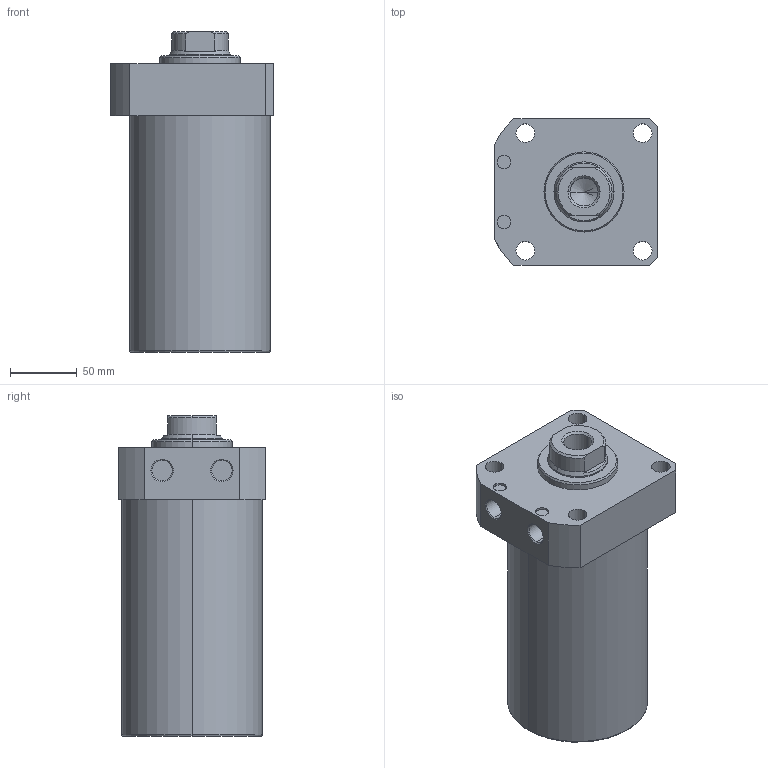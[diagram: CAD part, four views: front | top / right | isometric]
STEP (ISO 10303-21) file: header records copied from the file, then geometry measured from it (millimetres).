
FILE_DESCRIPTION (( 'STEP AP203' ), '1' );
FILE_NAME ('CLLR-105CA-130.STEP', '2019-12-18T07:22:03', ( '' ), ( '' ), 'SwSTEP 2.0', 'SolidWorks 2015', '' );
FILE_SCHEMA (( 'CONFIG_CONTROL_DESIGN' ));
Length unit declared in the file: millimetre
Products named in the file (1): CLLR-105CA-130
Bounding box: 122 x 110 x 240 mm (x, y, z)
Volume: 2029804.1 mm3; surface area: 116971.8 mm2
Topology: 1 solids, 1 shells, 65 faces, 153 edges, 96 vertices
Faces by surface type: cylinder 29, plane 19, cone 15, torus 2
Entity records: 1971 total; most frequent: DIRECTION 352, CARTESIAN_POINT 337, ORIENTED_EDGE 302, EDGE_CURVE 151, AXIS2_PLACEMENT_3D 143, VERTEX_POINT 96, EDGE_LOOP 81, CIRCLE 77
